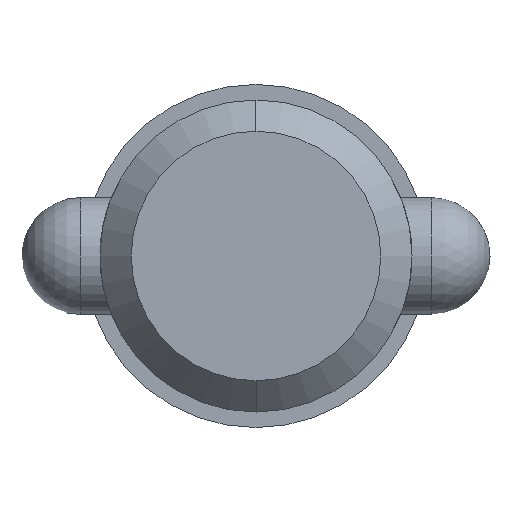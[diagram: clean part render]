
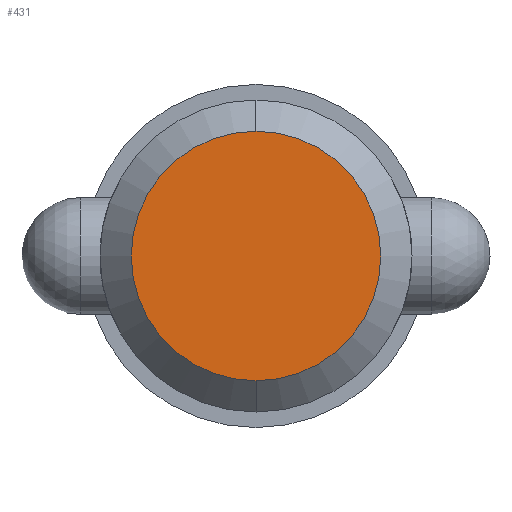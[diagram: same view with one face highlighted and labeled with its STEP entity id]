
A CAD part, left-side view. The second image highlights one B-rep face of the part: STEP entity #431.
In plain terms, the highlighted planar face has unit normal (-1, 0, 0).
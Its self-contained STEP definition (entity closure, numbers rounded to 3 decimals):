
#8 = VERTEX_POINT ( 'NONE', #507 ) ;
#45 = DIRECTION ( 'NONE',  ( 0., 0., -1. ) ) ;
#130 = VERTEX_POINT ( 'NONE', #315 ) ;
#131 = CIRCLE ( 'NONE', #148, 10.16 ) ;
#139 = EDGE_CURVE ( 'NONE', #130, #8, #299, .T. ) ;
#148 = AXIS2_PLACEMENT_3D ( 'NONE', #823, #488, #344 ) ;
#223 = DIRECTION ( 'NONE',  ( 0., 0., 1. ) ) ;
#299 = CIRCLE ( 'NONE', #339, 10.16 ) ;
#315 = CARTESIAN_POINT ( 'NONE',  ( 0., 0., -10.16 ) ) ;
#339 = AXIS2_PLACEMENT_3D ( 'NONE', #538, #982, #45 ) ;
#344 = DIRECTION ( 'NONE',  ( 0., 0., -1. ) ) ;
#363 = EDGE_LOOP ( 'NONE', ( #955, #370 ) ) ;
#370 = ORIENTED_EDGE ( 'NONE', *, *, #820, .F. ) ;
#396 = PLANE ( 'NONE',  #521 ) ;
#431 = ADVANCED_FACE ( 'NONE', ( #619 ), #396, .T. ) ;
#488 = DIRECTION ( 'NONE',  ( 1., 0., 0. ) ) ;
#507 = CARTESIAN_POINT ( 'NONE',  ( 0., 0., 10.16 ) ) ;
#521 = AXIS2_PLACEMENT_3D ( 'NONE', #721, #643, #223 ) ;
#538 = CARTESIAN_POINT ( 'NONE',  ( 0., 0., 0. ) ) ;
#619 = FACE_OUTER_BOUND ( 'NONE', #363, .T. ) ;
#643 = DIRECTION ( 'NONE',  ( -1., 0., 0. ) ) ;
#721 = CARTESIAN_POINT ( 'NONE',  ( 0., 0., 0. ) ) ;
#820 = EDGE_CURVE ( 'NONE', #8, #130, #131, .T. ) ;
#823 = CARTESIAN_POINT ( 'NONE',  ( 0., 0., 0. ) ) ;
#955 = ORIENTED_EDGE ( 'NONE', *, *, #139, .F. ) ;
#982 = DIRECTION ( 'NONE',  ( 1., 0., 0. ) ) ;
